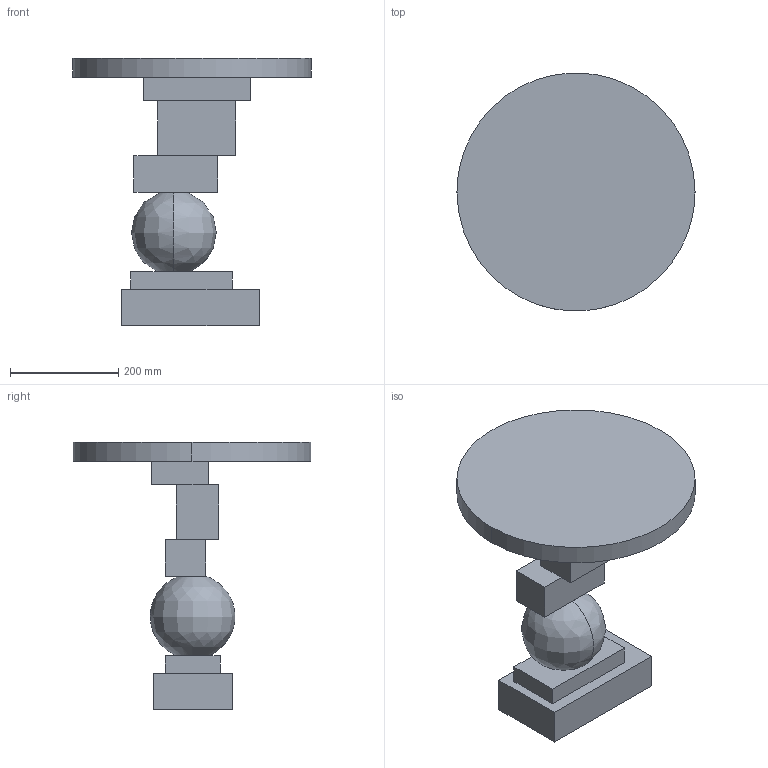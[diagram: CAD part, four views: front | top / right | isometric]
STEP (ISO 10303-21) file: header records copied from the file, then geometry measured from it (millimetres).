
FILE_DESCRIPTION(/* description */ (''),/* implementation_level */ '2;1');
FILE_NAME(/* name */ 'Artist Side Table',/* time_stamp */ '2023-09-26T13:14:37+02:00',/* author */ (''),/* organization */ (''),/* preprocessor_version */ 'ST-DEVELOPER v15',/* originating_system */ '',/* authorisation */ '');
FILE_SCHEMA (('AUTOMOTIVE_DESIGN'));
Length unit declared in the file: millimetre
Products named in the file (1): Document
Bounding box: 440 x 439.11 x 493.78 mm (x, y, z)
Volume: 13265523.5 mm3; surface area: 804101.9 mm2
Topology: 7 solids, 7 shells, 39 faces, 75 edges, 50 vertices
Faces by surface type: plane 35, bspline 4
Entity records: 944 total; most frequent: CARTESIAN_POINT 341, ORIENTED_EDGE 150, EDGE_CURVE 75, B_SPLINE_CURVE_WITH_KNOTS 63, VERTEX_POINT 50, ADVANCED_FACE 39, FACE_OUTER_BOUND 39, EDGE_LOOP 39
